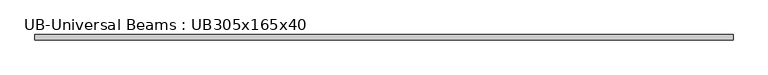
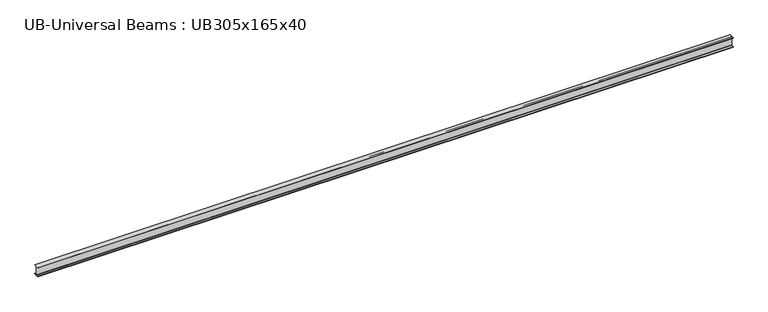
"""IFC4 building model written with IfcOpenShell, lengths in millimetres: beam geometry, UB-Universal Beams : UB305x165x40."""

from ifc_helpers import new_model, si_unit, point, frame, frame_2d, origin, place, context, project, spatial, polyline, circle_curve, trimmed, segment, composite_curve, outline, extrude, source, transform, mapped, element, save


def ub_universal_beams_ub305x165x40_de42b84e(model_context):
    return source(origin(), model_context, "Body", "SweptSolid", [
        extrude(outline(composite_curve([segment(polyline([(82.5, -141.5), (82.5, -151.7), (-82.5, -151.7), (-82.5, -141.5), (-11.9, -141.5)]), True, "CONTINUOUS"), segment(trimmed(circle_curve(frame_2d((-11.9, -132.6)), 8.9), [point((-11.9, -141.5))], [point((-3.0, -132.6))], True, "CARTESIAN"), True, "CONTINUOUS"), segment(polyline([(-3.0, -132.6), (-3.0, 132.6)]), True, "CONTINUOUS"), segment(trimmed(circle_curve(frame_2d((-11.9, 132.6)), 8.9), [point((-3.0, 132.6))], [point((-11.9, 141.5))], True, "CARTESIAN"), True, "CONTINUOUS"), segment(polyline([(-11.9, 141.5), (-82.5, 141.5), (-82.5, 151.7), (82.5, 151.7), (82.5, 141.5), (11.9, 141.5)]), True, "CONTINUOUS"), segment(trimmed(circle_curve(frame_2d((11.9, 132.6)), 8.9), [point((11.9, 141.5))], [point((3.0, 132.6))], True, "CARTESIAN"), True, "CONTINUOUS"), segment(polyline([(3.0, 132.6), (3.0, -132.6)]), True, "CONTINUOUS"), segment(trimmed(circle_curve(frame_2d((11.9, -132.6)), 8.9), [point((3.0, -132.6))], [point((11.9, -141.5))], True, "CARTESIAN"), True, "CONTINUOUS"), segment(polyline([(11.9, -141.5), (82.5, -141.5)]), True, "CONTINUOUS")], self_intersect=False)), frame((-10924.15, 0.0, 0.0), z_axis=(1.0, 0.0, 0.0), x_axis=(0.0, 1.0, 0.0)), (0.0, 0.0, 1.0), 21848.3),
    ])


if __name__ == "__main__":
    model = new_model("IFC4")
    model_context = context("Model", 3, world=origin())
    ifc_project = project(units=[si_unit("LENGTHUNIT", "METRE", prefix="MILLI")], contexts=[model_context])
    site = spatial("IfcSite", under=ifc_project)
    building = spatial("IfcBuilding", under=site)
    placement = place(None, origin())
    ub_universal_beams_ub305x165x40_shape = ub_universal_beams_ub305x165x40_de42b84e(model_context)
    element("IfcBeam", 1, ObjectType="UB-Universal Beams : UB305x165x40", at=placement, inside=building, context=model_context, shape_type="MappedRepresentation", body=[
        mapped(ub_universal_beams_ub305x165x40_shape, transform((0.0, 0.0, 0.0), x_axis=(1.0, 0.0, 0.0), y_axis=(0.0, 1.0, 0.0), z_axis=(0.0, 0.0, 1.0))),
    ])
    save(model, "model.ifc")
